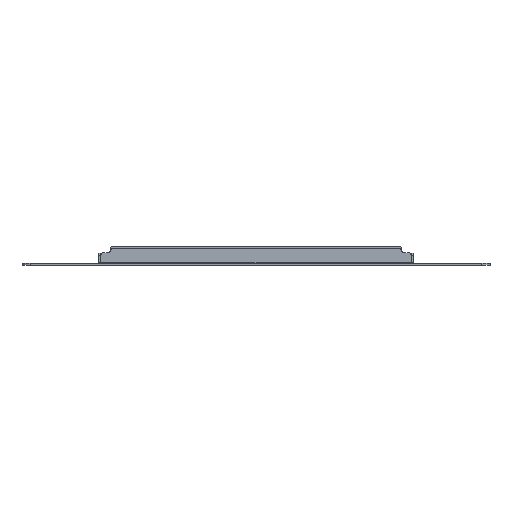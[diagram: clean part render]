
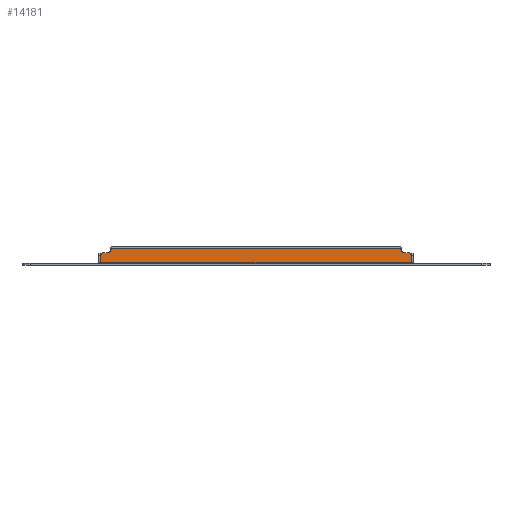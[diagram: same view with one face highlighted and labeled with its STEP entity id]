
A CAD part, front view. The second image highlights one B-rep face of the part: STEP entity #14181.
In plain terms, the highlighted planar face has unit normal (0, -1, 0).
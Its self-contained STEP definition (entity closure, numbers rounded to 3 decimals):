
#6576=CARTESIAN_POINT('',(-75.6,-23.067,4.2));
#6577=DIRECTION('',(0.,-1.,0.));
#6578=DIRECTION('',(0.,0.,1.));
#6579=AXIS2_PLACEMENT_3D('',#6576,#6577,#6578);
#6584=DIRECTION('',(1.,0.,0.));
#6585=VECTOR('',#6584,2.5);
#6586=CARTESIAN_POINT('',(-75.6,-23.067,5.2));
#6587=LINE('',#6586,#6585);
#6591=CARTESIAN_POINT('',(-71.1,-23.067,6.2));
#6592=DIRECTION('',(0.,-1.,0.));
#6593=DIRECTION('',(0.,0.,1.));
#6594=AXIS2_PLACEMENT_3D('',#6591,#6592,#6593);
#6599=CARTESIAN_POINT('',(71.1,-23.067,6.2));
#6600=DIRECTION('',(0.,-1.,0.));
#6601=DIRECTION('',(1.,0.,0.));
#6602=AXIS2_PLACEMENT_3D('',#6599,#6600,#6601);
#6607=DIRECTION('',(-1.,0.,0.));
#6608=VECTOR('',#6607,2.5);
#6609=CARTESIAN_POINT('',(75.6,-23.067,5.2));
#6610=LINE('',#6609,#6608);
#6614=CARTESIAN_POINT('',(75.6,-23.067,4.2));
#6615=DIRECTION('',(0.,-1.,0.));
#6616=DIRECTION('',(1.,0.,0.));
#6617=AXIS2_PLACEMENT_3D('',#6614,#6615,#6616);
#6622=DIRECTION('',(-1.,0.,0.));
#6623=VECTOR('',#6622,153.2);
#6624=CARTESIAN_POINT('',(76.6,-23.067,0.2));
#6625=LINE('',#6624,#6623);
#6636=DIRECTION('',(0.,0.,1.));
#6637=VECTOR('',#6636,4.);
#6638=CARTESIAN_POINT('',(-76.6,-23.067,0.2));
#6639=LINE('',#6638,#6637);
#6724=DIRECTION('',(0.,0.,1.));
#6725=VECTOR('',#6724,4.);
#6726=CARTESIAN_POINT('',(76.6,-23.067,0.2));
#6727=LINE('',#6726,#6725);
#6760=CARTESIAN_POINT('',(73.1,-23.067,6.2));
#6761=DIRECTION('',(0.,1.,0.));
#6762=DIRECTION('',(0.,0.,-1.));
#6763=AXIS2_PLACEMENT_3D('',#6760,#6761,#6762);
#6789=DIRECTION('',(-1.,0.,0.));
#6790=VECTOR('',#6789,142.2);
#6791=CARTESIAN_POINT('',(71.1,-23.067,7.2));
#6792=LINE('',#6791,#6790);
#6803=CARTESIAN_POINT('',(-73.1,-23.067,6.2));
#6804=DIRECTION('',(0.,1.,0.));
#6805=DIRECTION('',(1.,0.,0.));
#6806=AXIS2_PLACEMENT_3D('',#6803,#6804,#6805);
#9445=CARTESIAN_POINT('',(76.6,-23.067,0.2));
#9446=VERTEX_POINT('',#9445);
#9447=CARTESIAN_POINT('',(-76.6,-23.067,0.2));
#9448=VERTEX_POINT('',#9447);
#9537=CARTESIAN_POINT('',(-73.1,-23.067,5.2));
#9539=VERTEX_POINT('',#9537);
#9541=CARTESIAN_POINT('',(73.1,-23.067,5.2));
#9543=VERTEX_POINT('',#9541);
#9585=CARTESIAN_POINT('',(-75.6,-23.067,5.2));
#9586=CARTESIAN_POINT('',(-76.6,-23.067,4.2));
#9587=VERTEX_POINT('',#9585);
#9588=VERTEX_POINT('',#9586);
#9593=CARTESIAN_POINT('',(-71.1,-23.067,7.2));
#9594=CARTESIAN_POINT('',(-72.1,-23.067,6.2));
#9595=VERTEX_POINT('',#9593);
#9596=VERTEX_POINT('',#9594);
#9601=CARTESIAN_POINT('',(72.1,-23.067,6.2));
#9602=CARTESIAN_POINT('',(71.1,-23.067,7.2));
#9603=VERTEX_POINT('',#9601);
#9604=VERTEX_POINT('',#9602);
#9609=CARTESIAN_POINT('',(76.6,-23.067,4.2));
#9610=CARTESIAN_POINT('',(75.6,-23.067,5.2));
#9611=VERTEX_POINT('',#9609);
#9612=VERTEX_POINT('',#9610);
#14151=CARTESIAN_POINT('',(76.6,-23.067,0.2));
#14152=DIRECTION('',(0.,-1.,0.));
#14153=DIRECTION('',(0.,0.,1.));
#14154=AXIS2_PLACEMENT_3D('',#14151,#14152,#14153);
#14155=PLANE('',#14154);
#14157=ORIENTED_EDGE('',*,*,#14156,.F.);
#14159=ORIENTED_EDGE('',*,*,#14158,.T.);
#14161=ORIENTED_EDGE('',*,*,#14160,.F.);
#14163=ORIENTED_EDGE('',*,*,#14162,.F.);
#14165=ORIENTED_EDGE('',*,*,#14164,.F.);
#14167=ORIENTED_EDGE('',*,*,#14166,.F.);
#14169=ORIENTED_EDGE('',*,*,#14168,.F.);
#14171=ORIENTED_EDGE('',*,*,#14170,.F.);
#14173=ORIENTED_EDGE('',*,*,#14172,.F.);
#14175=ORIENTED_EDGE('',*,*,#14174,.F.);
#14176=ORIENTED_EDGE('',*,*,#14146,.T.);
#14178=ORIENTED_EDGE('',*,*,#14177,.T.);
#14179=EDGE_LOOP('',(#14157,#14159,#14161,#14163,#14165,#14167,#14169,#14171,
#14173,#14175,#14176,#14178));
#14180=FACE_OUTER_BOUND('',#14179,.F.);
#6580=CIRCLE('',#6579,1.);
#6595=CIRCLE('',#6594,1.);
#6603=CIRCLE('',#6602,1.);
#6618=CIRCLE('',#6617,1.);
#6764=CIRCLE('',#6763,1.);
#6807=CIRCLE('',#6806,1.);
#14146=EDGE_CURVE('',#9446,#9448,#6625,.T.);
#14156=EDGE_CURVE('',#9587,#9588,#6580,.T.);
#14158=EDGE_CURVE('',#9587,#9539,#6587,.T.);
#14160=EDGE_CURVE('',#9596,#9539,#6807,.T.);
#14162=EDGE_CURVE('',#9595,#9596,#6595,.T.);
#14164=EDGE_CURVE('',#9604,#9595,#6792,.T.);
#14166=EDGE_CURVE('',#9603,#9604,#6603,.T.);
#14168=EDGE_CURVE('',#9543,#9603,#6764,.T.);
#14170=EDGE_CURVE('',#9612,#9543,#6610,.T.);
#14172=EDGE_CURVE('',#9611,#9612,#6618,.T.);
#14174=EDGE_CURVE('',#9446,#9611,#6727,.T.);
#14177=EDGE_CURVE('',#9448,#9588,#6639,.T.);
#14181=ADVANCED_FACE('',(#14180),#14155,.T.);
